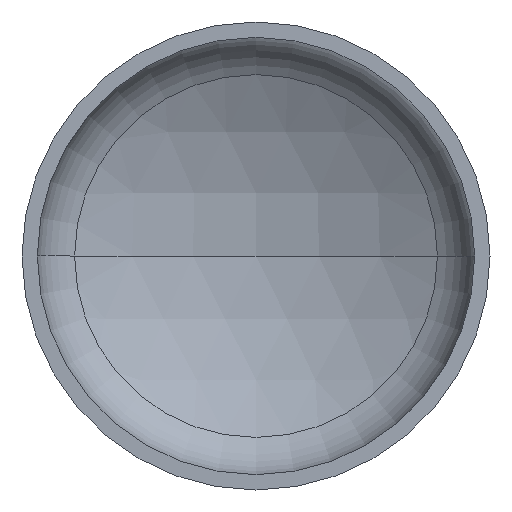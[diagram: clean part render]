
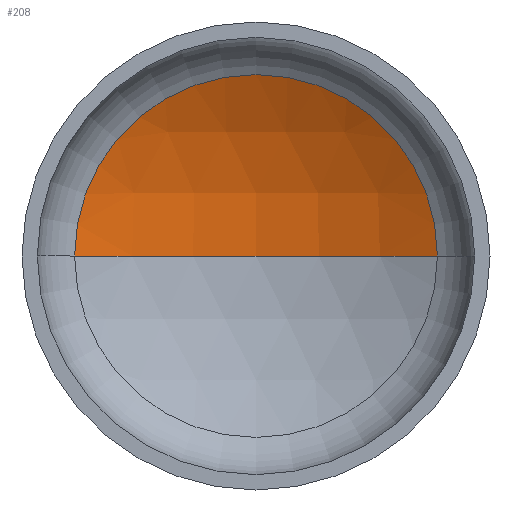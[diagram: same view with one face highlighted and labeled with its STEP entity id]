
A CAD part, front view. The second image highlights one B-rep face of the part: STEP entity #208.
In plain terms, the highlighted spherical face has radius 880 mm.
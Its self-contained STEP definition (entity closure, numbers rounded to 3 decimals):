
#1 = ORIENTED_EDGE ( 'NONE', *, *, #122, .T. ) ;
#6 = EDGE_LOOP ( 'NONE', ( #14, #1, #124 ) ) ;
#10 = DIRECTION ( 'NONE',  ( 0., -1., 0. ) ) ;
#14 = ORIENTED_EDGE ( 'NONE', *, *, #126, .F. ) ;
#18 = CARTESIAN_POINT ( 'NONE',  ( 0., -511.099, 0. ) ) ;
#21 = VERTEX_POINT ( 'NONE', #251 ) ;
#31 = AXIS2_PLACEMENT_3D ( 'NONE', #221, #259, #245 ) ;
#46 = AXIS2_PLACEMENT_3D ( 'NONE', #266, #198, #217 ) ;
#48 = AXIS2_PLACEMENT_3D ( 'NONE', #18, #80, #287 ) ;
#49 = AXIS2_PLACEMENT_3D ( 'NONE', #335, #10, #397 ) ;
#74 = VERTEX_POINT ( 'NONE', #265 ) ;
#80 = DIRECTION ( 'NONE',  ( 0., 0., -1. ) ) ;
#87 = VERTEX_POINT ( 'NONE', #298 ) ;
#90 = FACE_OUTER_BOUND ( 'NONE', #6, .T. ) ;
#119 = EDGE_CURVE ( 'NONE', #74, #87, #381, .T. ) ;
#122 = EDGE_CURVE ( 'NONE', #21, #74, #318, .T. ) ;
#124 = ORIENTED_EDGE ( 'NONE', *, *, #119, .T. ) ;
#126 = EDGE_CURVE ( 'NONE', #21, #87, #270, .T. ) ;
#198 = DIRECTION ( 'NONE',  ( 0., 0., 1. ) ) ;
#208 = ADVANCED_FACE ( 'NONE', ( #90 ), #311, .F. ) ;
#217 = DIRECTION ( 'NONE',  ( 1., 0., 0. ) ) ;
#221 = CARTESIAN_POINT ( 'NONE',  ( 0., -511.099, 0. ) ) ;
#245 = DIRECTION ( 'NONE',  ( -1., 0., 0. ) ) ;
#251 = CARTESIAN_POINT ( 'NONE',  ( 0., 368.901, 0. ) ) ;
#259 = DIRECTION ( 'NONE',  ( 0., 0., -1. ) ) ;
#265 = CARTESIAN_POINT ( 'NONE',  ( 426.366, 258.714, 0. ) ) ;
#266 = CARTESIAN_POINT ( 'NONE',  ( 0., -511.099, 0. ) ) ;
#270 = CIRCLE ( 'NONE', #46, 880. ) ;
#287 = DIRECTION ( 'NONE',  ( -1., 0., 0. ) ) ;
#298 = CARTESIAN_POINT ( 'NONE',  ( -426.366, 258.714, 0. ) ) ;
#311 = SPHERICAL_SURFACE ( 'NONE', #31, 880. ) ;
#318 = CIRCLE ( 'NONE', #48, 880. ) ;
#335 = CARTESIAN_POINT ( 'NONE',  ( 0., 258.714, 0. ) ) ;
#381 = CIRCLE ( 'NONE', #49, 426.366 ) ;
#397 = DIRECTION ( 'NONE',  ( 1., 0., 0. ) ) ;
